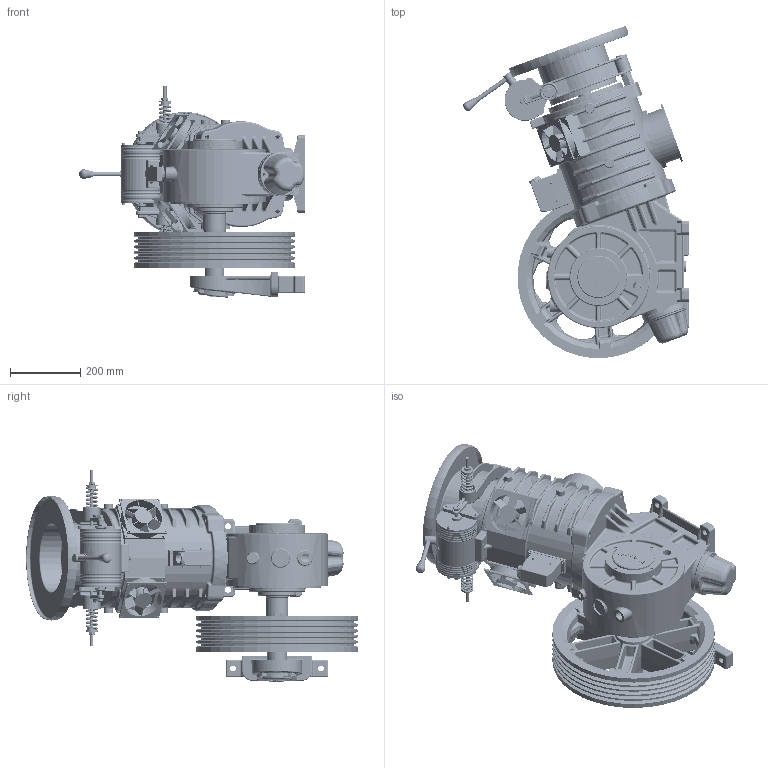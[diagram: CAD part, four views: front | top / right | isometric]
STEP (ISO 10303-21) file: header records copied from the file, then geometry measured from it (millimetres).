
FILE_DESCRIPTION (( 'STEP AP214' ), '1' );
FILE_NAME ('EL75080.STEP', '2025-10-02T08:29:27', ( '' ), ( '' ), 'SwSTEP 2.0', 'SolidWorks 2023', '' );
FILE_SCHEMA (( 'AUTOMOTIVE_DESIGN' ));
Length unit declared in the file: millimetre
Products named in the file (1): EL75080
Bounding box: 640.47 x 941.6 x 600.2 mm (x, y, z)
Volume: 42915887.2 mm3; surface area: 5058286.2 mm2
Topology: 89 solids, 103 shells, 7002 faces, 16727 edges, 9860 vertices
Faces by surface type: cylinder 2437, plane 1623, bspline 1305, torus 720, sphere 483, cone 434
Entity records: 277498 total; most frequent: CARTESIAN_POINT 122919, ORIENTED_EDGE 32840, DIRECTION 31876, EDGE_CURVE 16420, AXIS2_PLACEMENT_3D 13334, VERTEX_POINT 9835, CIRCLE 7636, EDGE_LOOP 7627
